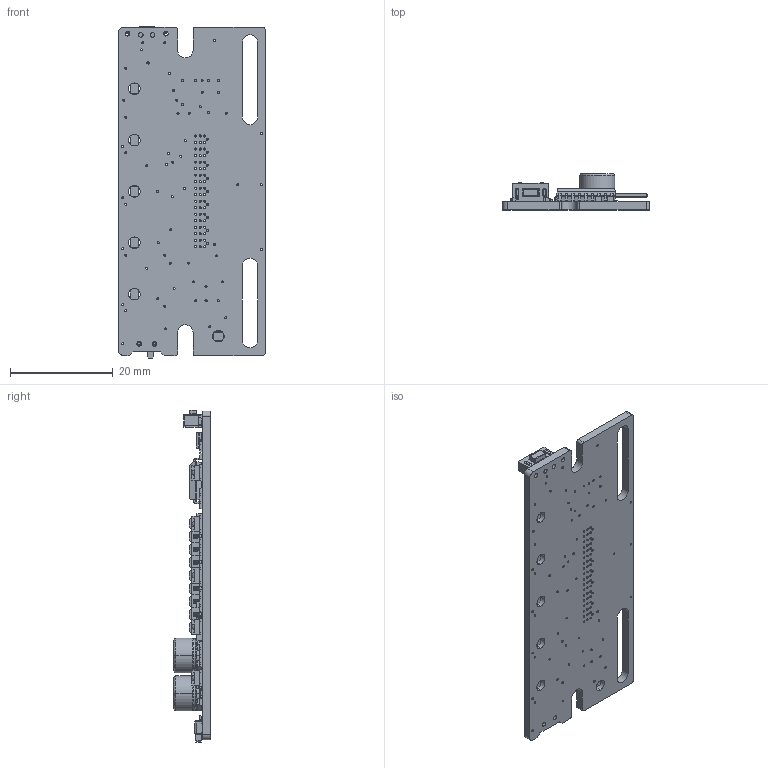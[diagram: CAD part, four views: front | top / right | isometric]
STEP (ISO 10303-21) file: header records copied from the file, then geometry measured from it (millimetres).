
FILE_DESCRIPTION (( 'STEP AP214' ), '1' );
FILE_NAME ('MAKER-LINE.STEP', '2019-07-01T07:30:48', ( '' ), ( '' ), 'SwSTEP 2.0', 'SolidWorks 2015', '' );
FILE_SCHEMA (( 'AUTOMOTIVE_DESIGN' ));
Length unit declared in the file: millimetre
Products named in the file (13): LED-3216-REVERSE; MAKER-LINE; SW-PB-KAN3543-RA; Board; SW-SLIDE-SPDT-SMD; PCB Component; SOT-23; ECAP-CHEMICON-F; R2012; ITR1502; SOIC-18W; S-HDR-M1X09-RA; C2012
Assembly tree (47 placements, depth 3):
  MAKER-LINE
    PCB Component
      Board
      C2012  x5
      R2012  x20
      LED-3216-REVERSE  x6
      SW-SLIDE-SPDT-SMD
      SW-PB-KAN3543-RA
      ITR1502  x5
      SOIC-18W
      SOT-23  x3
      ECAP-CHEMICON-F  x2
      S-HDR-M1X09-RA
Bounding box: 28.6 x 7.08 x 64.69 mm (x, y, z)
Volume: 3609.5 mm3; surface area: 6620.2 mm2
Topology: 91 solids, 91 shells, 2300 faces, 5866 edges, 3736 vertices
Faces by surface type: plane 1633, cylinder 601, bspline 62, cone 4
Entity records: 60461 total; most frequent: CARTESIAN_POINT 9142, DIRECTION 7760, ORIENTED_EDGE 7492, EDGE_CURVE 3746, LINE 2686, VECTOR 2686, AXIS2_PLACEMENT_3D 2537, VERTEX_POINT 2367
